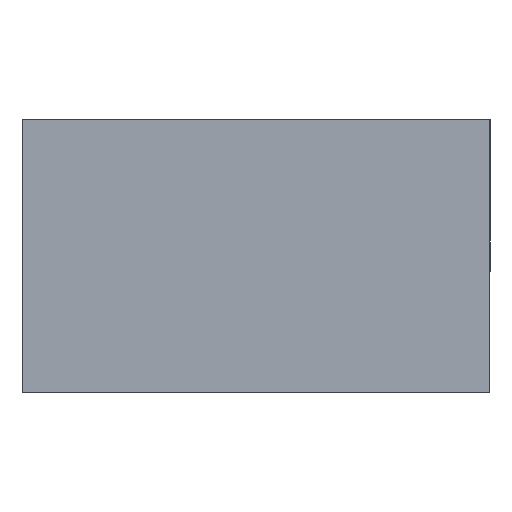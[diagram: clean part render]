
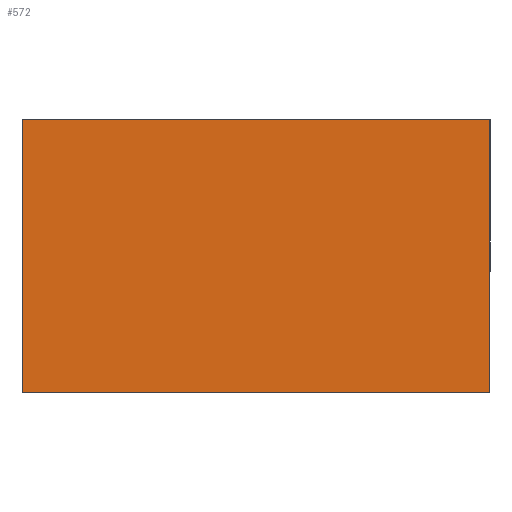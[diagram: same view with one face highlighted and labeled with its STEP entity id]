
A CAD part, front view. The second image highlights one B-rep face of the part: STEP entity #572.
In plain terms, the highlighted planar face has unit normal (0, -1, 0).
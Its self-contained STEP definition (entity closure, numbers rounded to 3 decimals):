
#69 = VERTEX_POINT ( 'NONE', #1187 ) ;
#103 = LINE ( 'NONE', #658, #961 ) ;
#140 = CARTESIAN_POINT ( 'NONE',  ( 0., 0., 0. ) ) ;
#171 = CARTESIAN_POINT ( 'NONE',  ( -30., 0., 17.5 ) ) ;
#304 = VERTEX_POINT ( 'NONE', #1135 ) ;
#437 = VERTEX_POINT ( 'NONE', #171 ) ;
#440 = ORIENTED_EDGE ( 'NONE', *, *, #460, .F. ) ;
#443 = EDGE_LOOP ( 'NONE', ( #1136, #440, #1866, #2113 ) ) ;
#458 = FACE_OUTER_BOUND ( 'NONE', #443, .T. ) ;
#460 = EDGE_CURVE ( 'NONE', #437, #69, #2050, .T. ) ;
#564 = VECTOR ( 'NONE', #1087, 1000. ) ;
#566 = LINE ( 'NONE', #2103, #628 ) ;
#572 = ADVANCED_FACE ( 'NONE', ( #458 ), #1812, .F. ) ;
#628 = VECTOR ( 'NONE', #805, 1000. ) ;
#632 = CARTESIAN_POINT ( 'NONE',  ( -30., 0., -17.5 ) ) ;
#658 = CARTESIAN_POINT ( 'NONE',  ( 30., 0., -17.5 ) ) ;
#805 = DIRECTION ( 'NONE',  ( -1., 0., 0. ) ) ;
#814 = DIRECTION ( 'NONE',  ( 0., 0., -1. ) ) ;
#961 = VECTOR ( 'NONE', #814, 1000. ) ;
#1052 = DIRECTION ( 'NONE',  ( 0., 0., 1. ) ) ;
#1079 = EDGE_CURVE ( 'NONE', #304, #437, #1382, .T. ) ;
#1087 = DIRECTION ( 'NONE',  ( 1., 0., 0. ) ) ;
#1135 = CARTESIAN_POINT ( 'NONE',  ( -30., 0., -17.5 ) ) ;
#1136 = ORIENTED_EDGE ( 'NONE', *, *, #1284, .F. ) ;
#1187 = CARTESIAN_POINT ( 'NONE',  ( 30., 0., 17.5 ) ) ;
#1284 = EDGE_CURVE ( 'NONE', #69, #1613, #103, .T. ) ;
#1382 = LINE ( 'NONE', #632, #2312 ) ;
#1427 = CARTESIAN_POINT ( 'NONE',  ( 30., 0., -17.5 ) ) ;
#1461 = CARTESIAN_POINT ( 'NONE',  ( -30., 0., 17.5 ) ) ;
#1562 = DIRECTION ( 'NONE',  ( 0., 0., 1. ) ) ;
#1613 = VERTEX_POINT ( 'NONE', #1427 ) ;
#1812 = PLANE ( 'NONE',  #1815 ) ;
#1815 = AXIS2_PLACEMENT_3D ( 'NONE', #140, #2349, #1052 ) ;
#1866 = ORIENTED_EDGE ( 'NONE', *, *, #1079, .F. ) ;
#2050 = LINE ( 'NONE', #1461, #564 ) ;
#2103 = CARTESIAN_POINT ( 'NONE',  ( -30., 0., -17.5 ) ) ;
#2113 = ORIENTED_EDGE ( 'NONE', *, *, #2258, .F. ) ;
#2258 = EDGE_CURVE ( 'NONE', #1613, #304, #566, .T. ) ;
#2312 = VECTOR ( 'NONE', #1562, 1000. ) ;
#2349 = DIRECTION ( 'NONE',  ( 0., 1., 0. ) ) ;
